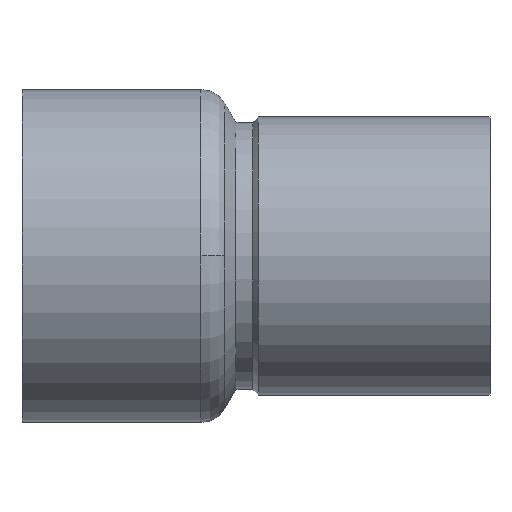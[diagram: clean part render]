
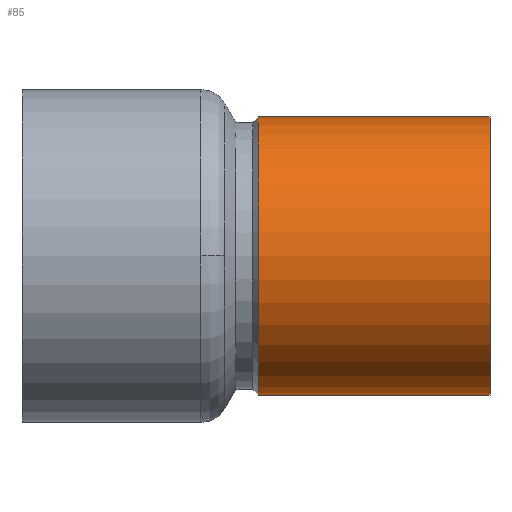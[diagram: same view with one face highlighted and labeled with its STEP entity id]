
A CAD part, top view. The second image highlights one B-rep face of the part: STEP entity #85.
In plain terms, the highlighted cylindrical face has radius 5.05 mm (diameter 10.1 mm), a partial arc.
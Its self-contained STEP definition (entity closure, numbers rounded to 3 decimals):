
#44=CARTESIAN_POINT('',(12.793,0.0,0.0));
#45=DIRECTION('',(1.0,0.0,0.0));
#46=DIRECTION('',(0.0,1.0,0.0));
#47=AXIS2_PLACEMENT_3D('',#44,#45,#46);
#48=CYLINDRICAL_SURFACE('',#47,5.05);
#49=CARTESIAN_POINT('',(8.586,5.05,0.0));
#50=VERTEX_POINT('',#49);
#51=CARTESIAN_POINT('',(17.0,5.05,0.0));
#52=VERTEX_POINT('',#51);
#53=CARTESIAN_POINT('',(8.586,5.05,0.0));
#54=DIRECTION('',(1.0,0.0,0.0));
#55=VECTOR('',#54,8.414);
#56=LINE('',#53,#55);
#57=EDGE_CURVE('',#50,#52,#56,.T.);
#58=ORIENTED_EDGE('',*,*,#57,.F.);
#59=CARTESIAN_POINT('',(8.586,-5.05,0.));
#60=VERTEX_POINT('',#59);
#61=CARTESIAN_POINT('',(8.586,0.0,0.0));
#62=DIRECTION('',(1.0,0.0,0.0));
#63=DIRECTION('',(0.0,1.0,0.0));
#64=AXIS2_PLACEMENT_3D('',#61,#62,#63);
#65=CIRCLE('',#64,5.05);
#66=EDGE_CURVE('',#50,#60,#65,.T.);
#67=ORIENTED_EDGE('',*,*,#66,.T.);
#68=CARTESIAN_POINT('',(17.0,-5.05,0.));
#69=VERTEX_POINT('',#68);
#70=CARTESIAN_POINT('',(17.0,-5.05,0.));
#71=DIRECTION('',(-1.0,0.0,0.0));
#72=VECTOR('',#71,8.414);
#73=LINE('',#70,#72);
#74=EDGE_CURVE('',#69,#60,#73,.T.);
#75=ORIENTED_EDGE('',*,*,#74,.F.);
#76=CARTESIAN_POINT('',(17.0,0.0,0.0));
#77=DIRECTION('',(1.0,0.0,0.0));
#78=DIRECTION('',(0.0,1.0,0.0));
#79=AXIS2_PLACEMENT_3D('',#76,#77,#78);
#80=CIRCLE('',#79,5.05);
#81=EDGE_CURVE('',#52,#69,#80,.T.);
#82=ORIENTED_EDGE('',*,*,#81,.F.);
#83=EDGE_LOOP('',(#58,#67,#75,#82));
#84=FACE_OUTER_BOUND('',#83,.T.);
#85=ADVANCED_FACE('',(#84),#48,.T.);
